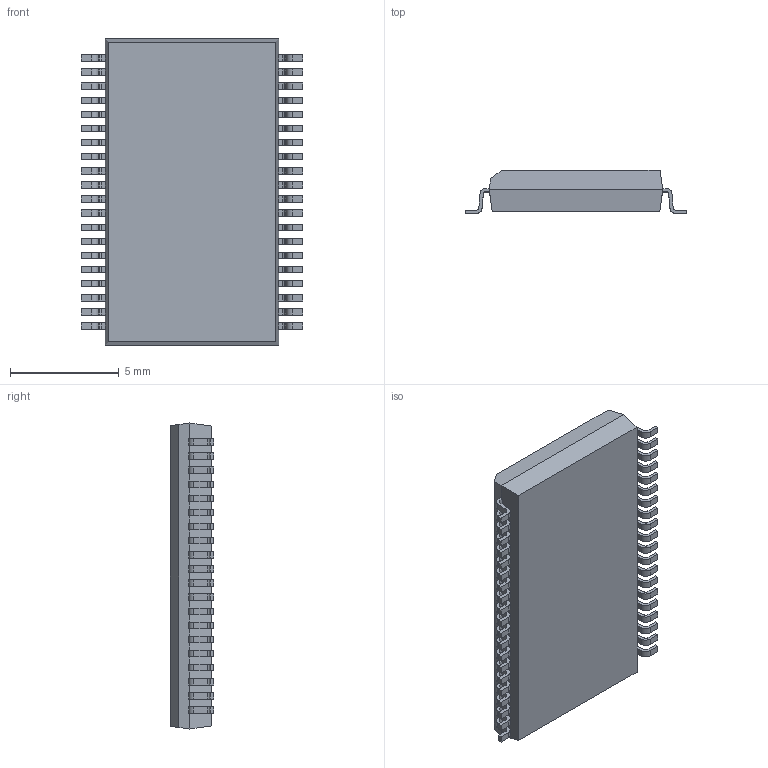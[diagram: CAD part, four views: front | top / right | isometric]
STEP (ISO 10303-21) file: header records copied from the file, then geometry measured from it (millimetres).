
FILE_DESCRIPTION (( 'STEP AP214' ), '1' );
FILE_NAME ('SOP65P1000X200-40_MO-152.GD.STEP', '2014-10-30T11:22:17', ( 'Tester2' ), ( '' ), 'SwSTEP 2.0', 'SolidWorks 2012', '' );
FILE_SCHEMA (( 'AUTOMOTIVE_DESIGN' ));
Length unit declared in the file: millimetre
Products named in the file (1): SOP65P1000X200-40_MO-152.GD
Bounding box: 10.2 x 2 x 14.1 mm (x, y, z)
Volume: 210.8 mm3; surface area: 362.5 mm2
Topology: 1 solids, 1 shells, 534 faces, 1589 edges, 1058 vertices
Faces by surface type: plane 372, cylinder 162
Entity records: 23632 total; most frequent: CARTESIAN_POINT 3182, ORIENTED_EDGE 3178, DIRECTION 2983, EDGE_CURVE 1589, LINE 1265, VECTOR 1265, VERTEX_POINT 1058, AXIS2_PLACEMENT_3D 859
